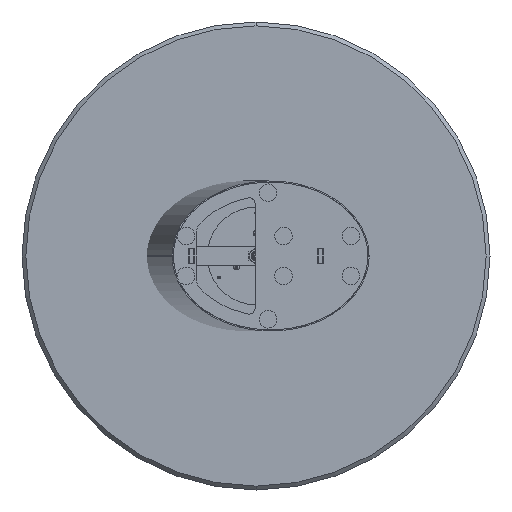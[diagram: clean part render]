
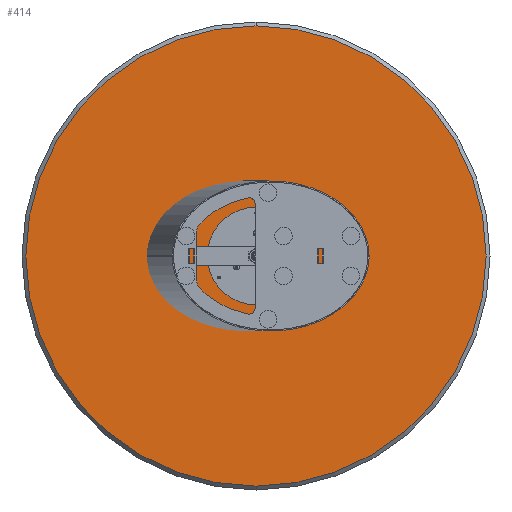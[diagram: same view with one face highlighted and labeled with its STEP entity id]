
A CAD part, front view. The second image highlights one B-rep face of the part: STEP entity #414.
In plain terms, the highlighted planar face has unit normal (0, -1, 0).
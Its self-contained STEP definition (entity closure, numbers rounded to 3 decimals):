
#324 = EDGE_CURVE ( 'NONE', #9236, #7987, #11917, .T. ) ;
#326 = AXIS2_PLACEMENT_3D ( 'NONE', #1408, #13349, #11038 ) ;
#414 = ADVANCED_FACE ( 'NONE', ( #10683, #9473, #5263, #2863, #847 ), #6206, .T. ) ;
#596 = CARTESIAN_POINT ( 'NONE',  ( 0., 0., 0. ) ) ;
#721 = VERTEX_POINT ( 'NONE', #6467 ) ;
#753 = EDGE_CURVE ( 'NONE', #4995, #1699, #13083, .T. ) ;
#847 = FACE_OUTER_BOUND ( 'NONE', #12044, .T. ) ;
#928 = CARTESIAN_POINT ( 'NONE',  ( 0., 0., 590. ) ) ;
#1245 = CARTESIAN_POINT ( 'NONE',  ( -95., 0., -58.248 ) ) ;
#1347 = CIRCLE ( 'NONE', #5776, 3.4 ) ;
#1408 = CARTESIAN_POINT ( 'NONE',  ( 95., 0., -54.848 ) ) ;
#1699 = VERTEX_POINT ( 'NONE', #928 ) ;
#1962 = AXIS2_PLACEMENT_3D ( 'NONE', #2067, #2205, #6478 ) ;
#1993 = AXIS2_PLACEMENT_3D ( 'NONE', #5056, #8400, #2001 ) ;
#2001 = DIRECTION ( 'NONE',  ( 0., 0., -1. ) ) ;
#2006 = CIRCLE ( 'NONE', #11030, 3.4 ) ;
#2014 = ORIENTED_EDGE ( 'NONE', *, *, #324, .F. ) ;
#2067 = CARTESIAN_POINT ( 'NONE',  ( 0., 0., 109.697 ) ) ;
#2205 = DIRECTION ( 'NONE',  ( 0., -1., 0. ) ) ;
#2280 = CARTESIAN_POINT ( 'NONE',  ( 0., 0., 106.297 ) ) ;
#2863 = FACE_BOUND ( 'NONE', #11001, .T. ) ;
#2967 = DIRECTION ( 'NONE',  ( 0., -1., 0. ) ) ;
#3036 = DIRECTION ( 'NONE',  ( 0., 0., -1. ) ) ;
#3553 = CIRCLE ( 'NONE', #326, 3.4 ) ;
#3582 = DIRECTION ( 'NONE',  ( 0., 0., -1. ) ) ;
#3600 = VERTEX_POINT ( 'NONE', #7709 ) ;
#3746 = DIRECTION ( 'NONE',  ( 0., -1., 0. ) ) ;
#4095 = DIRECTION ( 'NONE',  ( 0., -1., 0. ) ) ;
#4100 = EDGE_CURVE ( 'NONE', #3600, #12076, #8500, .T. ) ;
#4209 = ORIENTED_EDGE ( 'NONE', *, *, #10545, .F. ) ;
#4250 = DIRECTION ( 'NONE',  ( 0., -1., 0. ) ) ;
#4584 = ORIENTED_EDGE ( 'NONE', *, *, #6951, .F. ) ;
#4815 = CARTESIAN_POINT ( 'NONE',  ( 0., 0., -590. ) ) ;
#4851 = ORIENTED_EDGE ( 'NONE', *, *, #6145, .T. ) ;
#4909 = DIRECTION ( 'NONE',  ( 0., 0., -1. ) ) ;
#4995 = VERTEX_POINT ( 'NONE', #4815 ) ;
#5040 = DIRECTION ( 'NONE',  ( 0., 0., -1. ) ) ;
#5056 = CARTESIAN_POINT ( 'NONE',  ( 0., 0., 0. ) ) ;
#5058 = DIRECTION ( 'NONE',  ( 0., 0., -1. ) ) ;
#5078 = DIRECTION ( 'NONE',  ( 0., 0., -1. ) ) ;
#5230 = CIRCLE ( 'NONE', #9403, 3.4 ) ;
#5260 = ORIENTED_EDGE ( 'NONE', *, *, #11084, .F. ) ;
#5263 = FACE_BOUND ( 'NONE', #11859, .T. ) ;
#5346 = VERTEX_POINT ( 'NONE', #12379 ) ;
#5688 = CARTESIAN_POINT ( 'NONE',  ( 95., 0., -54.848 ) ) ;
#5697 = VERTEX_POINT ( 'NONE', #10591 ) ;
#5776 = AXIS2_PLACEMENT_3D ( 'NONE', #596, #2967, #3036 ) ;
#6145 = EDGE_CURVE ( 'NONE', #1699, #4995, #10595, .T. ) ;
#6206 = PLANE ( 'NONE',  #10096 ) ;
#6467 = CARTESIAN_POINT ( 'NONE',  ( 95., 0., -51.448 ) ) ;
#6478 = DIRECTION ( 'NONE',  ( 0., 0., -1. ) ) ;
#6850 = ORIENTED_EDGE ( 'NONE', *, *, #4100, .F. ) ;
#6951 = EDGE_CURVE ( 'NONE', #7987, #9236, #1347, .T. ) ;
#7066 = CIRCLE ( 'NONE', #1962, 3.4 ) ;
#7289 = DIRECTION ( 'NONE',  ( 0., 0., -1. ) ) ;
#7637 = CARTESIAN_POINT ( 'NONE',  ( 0., 0., 0. ) ) ;
#7709 = CARTESIAN_POINT ( 'NONE',  ( 0., 0., 113.097 ) ) ;
#7710 = DIRECTION ( 'NONE',  ( 0., -1., 0. ) ) ;
#7967 = CIRCLE ( 'NONE', #9783, 3.4 ) ;
#7987 = VERTEX_POINT ( 'NONE', #9709 ) ;
#8180 = CARTESIAN_POINT ( 'NONE',  ( -95., 0., -54.848 ) ) ;
#8400 = DIRECTION ( 'NONE',  ( 0., -1., 0. ) ) ;
#8500 = CIRCLE ( 'NONE', #11702, 3.4 ) ;
#9236 = VERTEX_POINT ( 'NONE', #11603 ) ;
#9403 = AXIS2_PLACEMENT_3D ( 'NONE', #12498, #3746, #5040 ) ;
#9473 = FACE_BOUND ( 'NONE', #9503, .T. ) ;
#9474 = CARTESIAN_POINT ( 'NONE',  ( 0., 0., 109.697 ) ) ;
#9503 = EDGE_LOOP ( 'NONE', ( #12634, #11812 ) ) ;
#9531 = VERTEX_POINT ( 'NONE', #1245 ) ;
#9709 = CARTESIAN_POINT ( 'NONE',  ( 0., 0., -3.4 ) ) ;
#9783 = AXIS2_PLACEMENT_3D ( 'NONE', #5688, #12327, #3582 ) ;
#10018 = DIRECTION ( 'NONE',  ( 0., 0., -1. ) ) ;
#10096 = AXIS2_PLACEMENT_3D ( 'NONE', #13878, #4095, #7289 ) ;
#10289 = ORIENTED_EDGE ( 'NONE', *, *, #13480, .F. ) ;
#10484 = DIRECTION ( 'NONE',  ( 0., -1., 0. ) ) ;
#10545 = EDGE_CURVE ( 'NONE', #9531, #5346, #5230, .T. ) ;
#10591 = CARTESIAN_POINT ( 'NONE',  ( 95., 0., -58.248 ) ) ;
#10595 = CIRCLE ( 'NONE', #11060, 590. ) ;
#10683 = FACE_BOUND ( 'NONE', #14152, .T. ) ;
#10854 = CARTESIAN_POINT ( 'NONE',  ( 0., 0., 0. ) ) ;
#11001 = EDGE_LOOP ( 'NONE', ( #4584, #2014 ) ) ;
#11030 = AXIS2_PLACEMENT_3D ( 'NONE', #8180, #12566, #4909 ) ;
#11038 = DIRECTION ( 'NONE',  ( 0., 0., -1. ) ) ;
#11060 = AXIS2_PLACEMENT_3D ( 'NONE', #10854, #4250, #5078 ) ;
#11084 = EDGE_CURVE ( 'NONE', #5346, #9531, #2006, .T. ) ;
#11272 = ORIENTED_EDGE ( 'NONE', *, *, #753, .T. ) ;
#11603 = CARTESIAN_POINT ( 'NONE',  ( 0., 0., 3.4 ) ) ;
#11702 = AXIS2_PLACEMENT_3D ( 'NONE', #9474, #10484, #5058 ) ;
#11812 = ORIENTED_EDGE ( 'NONE', *, *, #12148, .F. ) ;
#11859 = EDGE_LOOP ( 'NONE', ( #10289, #6850 ) ) ;
#11917 = CIRCLE ( 'NONE', #1993, 3.4 ) ;
#12044 = EDGE_LOOP ( 'NONE', ( #4851, #11272 ) ) ;
#12076 = VERTEX_POINT ( 'NONE', #2280 ) ;
#12148 = EDGE_CURVE ( 'NONE', #721, #5697, #7967, .T. ) ;
#12151 = EDGE_CURVE ( 'NONE', #5697, #721, #3553, .T. ) ;
#12327 = DIRECTION ( 'NONE',  ( 0., -1., 0. ) ) ;
#12379 = CARTESIAN_POINT ( 'NONE',  ( -95., 0., -51.448 ) ) ;
#12498 = CARTESIAN_POINT ( 'NONE',  ( -95., 0., -54.848 ) ) ;
#12566 = DIRECTION ( 'NONE',  ( 0., -1., 0. ) ) ;
#12634 = ORIENTED_EDGE ( 'NONE', *, *, #12151, .F. ) ;
#12855 = AXIS2_PLACEMENT_3D ( 'NONE', #7637, #7710, #10018 ) ;
#13083 = CIRCLE ( 'NONE', #12855, 590. ) ;
#13349 = DIRECTION ( 'NONE',  ( 0., -1., 0. ) ) ;
#13480 = EDGE_CURVE ( 'NONE', #12076, #3600, #7066, .T. ) ;
#13878 = CARTESIAN_POINT ( 'NONE',  ( 0., 0., 0. ) ) ;
#14152 = EDGE_LOOP ( 'NONE', ( #4209, #5260 ) ) ;
